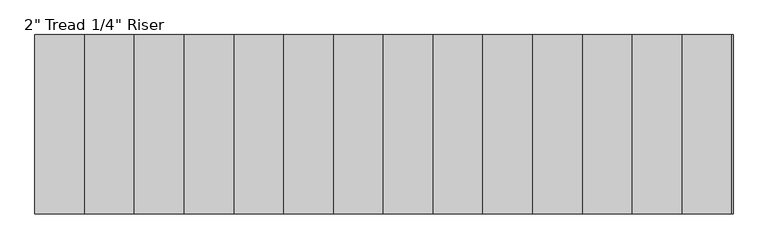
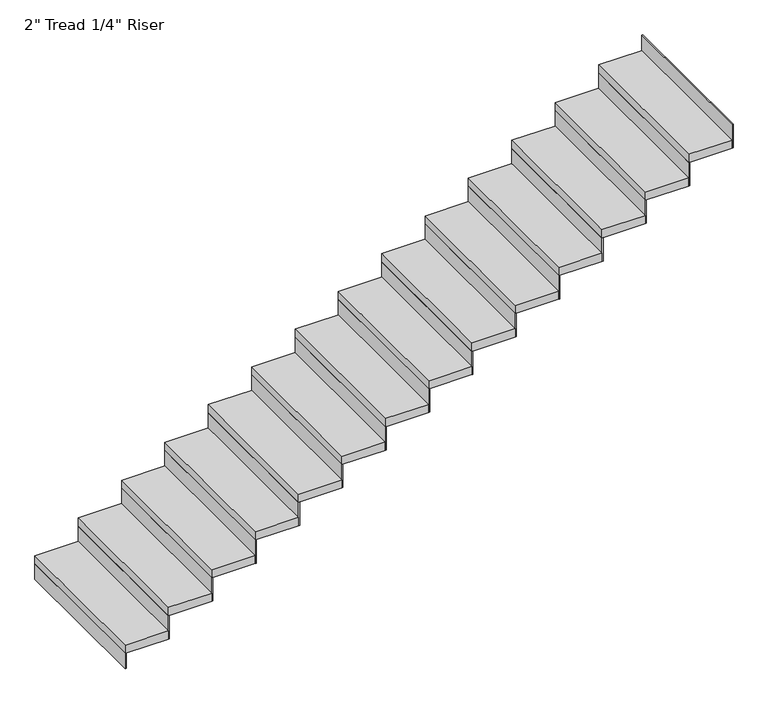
"""IFC4 building model written with IfcOpenShell, lengths in millimetres: stair flight geometry."""

from ifc_helpers import new_model, si_unit, frame, origin, origin_with_axes, place, context, project, spatial, polyline, outline, extrude, source, transform, mapped, element, save


def stair_flight_e342edde(model_context):
    return source(origin(), model_context, "Body", "SweptSolid", [
        extrude(outline(polyline([(24312.3612561, -22025.8617549), (24306.0112561, -22025.8617549), (24306.0112561, -21111.4617549), (24312.3612561, -21111.4617549), (24312.3612561, -22025.8617549)])), origin_with_axes(), (0.0, 0.0, 1.0), 94.3428571),
        extrude(outline(polyline([(24560.0112561, -21111.4617549), (24560.0112561, -22025.8617549), (24306.0112561, -22025.8617549), (24306.0112561, -21111.4617549), (24560.0112561, -21111.4617549)])), frame((0.0, 0.0, 94.3428571), z_axis=(0.0, 0.0, 1.0), x_axis=(1.0, 0.0, 0.0)), (0.0, 0.0, 1.0), 50.8),
        extrude(outline(polyline([(24566.3612561, -22025.8617549), (24560.0112561, -22025.8617549), (24560.0112561, -21111.4617549), (24566.3612561, -21111.4617549), (24566.3612561, -22025.8617549)])), frame((0.0, 0.0, 94.3428571), z_axis=(0.0, 0.0, 1.0), x_axis=(1.0, 0.0, 0.0)), (0.0, 0.0, 1.0), 145.1428571),
        extrude(outline(polyline([(24814.0112561, -21111.4617549), (24814.0112561, -22025.8617549), (24560.0112561, -22025.8617549), (24560.0112561, -21111.4617549), (24814.0112561, -21111.4617549)])), frame((0.0, 0.0, 239.4857143), z_axis=(0.0, 0.0, 1.0), x_axis=(1.0, 0.0, 0.0)), (0.0, 0.0, 1.0), 50.8),
        extrude(outline(polyline([(24820.3612561, -22025.8617549), (24814.0112561, -22025.8617549), (24814.0112561, -21111.4617549), (24820.3612561, -21111.4617549), (24820.3612561, -22025.8617549)])), frame((0.0, 0.0, 239.4857143), z_axis=(0.0, 0.0, 1.0), x_axis=(1.0, 0.0, 0.0)), (0.0, 0.0, 1.0), 145.1428571),
        extrude(outline(polyline([(25068.0112561, -21111.4617549), (25068.0112561, -22025.8617549), (24814.0112561, -22025.8617549), (24814.0112561, -21111.4617549), (25068.0112561, -21111.4617549)])), frame((0.0, 0.0, 384.6285714), z_axis=(0.0, 0.0, 1.0), x_axis=(1.0, 0.0, 0.0)), (0.0, 0.0, 1.0), 50.8),
        extrude(outline(polyline([(25074.3612561, -22025.8617549), (25068.0112561, -22025.8617549), (25068.0112561, -21111.4617549), (25074.3612561, -21111.4617549), (25074.3612561, -22025.8617549)])), frame((0.0, 0.0, 384.6285714), z_axis=(0.0, 0.0, 1.0), x_axis=(1.0, 0.0, 0.0)), (0.0, 0.0, 1.0), 145.1428571),
        extrude(outline(polyline([(25322.0112561, -21111.4617549), (25322.0112561, -22025.8617549), (25068.0112561, -22025.8617549), (25068.0112561, -21111.4617549), (25322.0112561, -21111.4617549)])), frame((0.0, 0.0, 529.7714286), z_axis=(0.0, 0.0, 1.0), x_axis=(1.0, 0.0, 0.0)), (0.0, 0.0, 1.0), 50.8),
        extrude(outline(polyline([(25328.3612561, -22025.8617549), (25322.0112561, -22025.8617549), (25322.0112561, -21111.4617549), (25328.3612561, -21111.4617549), (25328.3612561, -22025.8617549)])), frame((0.0, 0.0, 529.7714286), z_axis=(0.0, 0.0, 1.0), x_axis=(1.0, 0.0, 0.0)), (0.0, 0.0, 1.0), 145.1428571),
        extrude(outline(polyline([(25576.0112561, -21111.4617549), (25576.0112561, -22025.8617549), (25322.0112561, -22025.8617549), (25322.0112561, -21111.4617549), (25576.0112561, -21111.4617549)])), frame((0.0, 0.0, 674.9142857), z_axis=(0.0, 0.0, 1.0), x_axis=(1.0, 0.0, 0.0)), (0.0, 0.0, 1.0), 50.8),
        extrude(outline(polyline([(25582.3612561, -22025.8617549), (25576.0112561, -22025.8617549), (25576.0112561, -21111.4617549), (25582.3612561, -21111.4617549), (25582.3612561, -22025.8617549)])), frame((0.0, 0.0, 674.9142857), z_axis=(0.0, 0.0, 1.0), x_axis=(1.0, 0.0, 0.0)), (0.0, 0.0, 1.0), 145.1428571),
        extrude(outline(polyline([(25830.0112561, -21111.4617549), (25830.0112561, -22025.8617549), (25576.0112561, -22025.8617549), (25576.0112561, -21111.4617549), (25830.0112561, -21111.4617549)])), frame((0.0, 0.0, 820.0571429), z_axis=(0.0, 0.0, 1.0), x_axis=(1.0, 0.0, 0.0)), (0.0, 0.0, 1.0), 50.8),
        extrude(outline(polyline([(25836.3612561, -22025.8617549), (25830.0112561, -22025.8617549), (25830.0112561, -21111.4617549), (25836.3612561, -21111.4617549), (25836.3612561, -22025.8617549)])), frame((0.0, 0.0, 820.0571429), z_axis=(0.0, 0.0, 1.0), x_axis=(1.0, 0.0, 0.0)), (0.0, 0.0, 1.0), 145.1428571),
        extrude(outline(polyline([(26084.0112561, -21111.4617549), (26084.0112561, -22025.8617549), (25830.0112561, -22025.8617549), (25830.0112561, -21111.4617549), (26084.0112561, -21111.4617549)])), frame((0.0, 0.0, 965.2), z_axis=(0.0, 0.0, 1.0), x_axis=(1.0, 0.0, 0.0)), (0.0, 0.0, 1.0), 50.8),
        extrude(outline(polyline([(26090.3612561, -22025.8617549), (26084.0112561, -22025.8617549), (26084.0112561, -21111.4617549), (26090.3612561, -21111.4617549), (26090.3612561, -22025.8617549)])), frame((0.0, 0.0, 965.2), z_axis=(0.0, 0.0, 1.0), x_axis=(1.0, 0.0, 0.0)), (0.0, 0.0, 1.0), 145.1428571),
        extrude(outline(polyline([(26338.0112561, -21111.4617549), (26338.0112561, -22025.8617549), (26084.0112561, -22025.8617549), (26084.0112561, -21111.4617549), (26338.0112561, -21111.4617549)])), frame((0.0, 0.0, 1110.3428571), z_axis=(0.0, 0.0, 1.0), x_axis=(1.0, 0.0, 0.0)), (0.0, 0.0, 1.0), 50.8),
        extrude(outline(polyline([(26344.3612561, -22025.8617549), (26338.0112561, -22025.8617549), (26338.0112561, -21111.4617549), (26344.3612561, -21111.4617549), (26344.3612561, -22025.8617549)])), frame((0.0, 0.0, 1110.3428571), z_axis=(0.0, 0.0, 1.0), x_axis=(1.0, 0.0, 0.0)), (0.0, 0.0, 1.0), 145.1428571),
        extrude(outline(polyline([(26592.0112561, -21111.4617549), (26592.0112561, -22025.8617549), (26338.0112561, -22025.8617549), (26338.0112561, -21111.4617549), (26592.0112561, -21111.4617549)])), frame((0.0, 0.0, 1255.4857143), z_axis=(0.0, 0.0, 1.0), x_axis=(1.0, 0.0, 0.0)), (0.0, 0.0, 1.0), 50.8),
        extrude(outline(polyline([(26598.3612561, -22025.8617549), (26592.0112561, -22025.8617549), (26592.0112561, -21111.4617549), (26598.3612561, -21111.4617549), (26598.3612561, -22025.8617549)])), frame((0.0, 0.0, 1255.4857143), z_axis=(0.0, 0.0, 1.0), x_axis=(1.0, 0.0, 0.0)), (0.0, 0.0, 1.0), 145.1428571),
        extrude(outline(polyline([(26846.0112561, -21111.4617549), (26846.0112561, -22025.8617549), (26592.0112561, -22025.8617549), (26592.0112561, -21111.4617549), (26846.0112561, -21111.4617549)])), frame((0.0, 0.0, 1400.6285714), z_axis=(0.0, 0.0, 1.0), x_axis=(1.0, 0.0, 0.0)), (0.0, 0.0, 1.0), 50.8),
        extrude(outline(polyline([(26852.3612561, -22025.8617549), (26846.0112561, -22025.8617549), (26846.0112561, -21111.4617549), (26852.3612561, -21111.4617549), (26852.3612561, -22025.8617549)])), frame((0.0, 0.0, 1400.6285714), z_axis=(0.0, 0.0, 1.0), x_axis=(1.0, 0.0, 0.0)), (0.0, 0.0, 1.0), 145.1428571),
        extrude(outline(polyline([(27100.0112561, -21111.4617549), (27100.0112561, -22025.8617549), (26846.0112561, -22025.8617549), (26846.0112561, -21111.4617549), (27100.0112561, -21111.4617549)])), frame((0.0, 0.0, 1545.7714286), z_axis=(0.0, 0.0, 1.0), x_axis=(1.0, 0.0, 0.0)), (0.0, 0.0, 1.0), 50.8),
        extrude(outline(polyline([(27106.3612561, -22025.8617549), (27100.0112561, -22025.8617549), (27100.0112561, -21111.4617549), (27106.3612561, -21111.4617549), (27106.3612561, -22025.8617549)])), frame((0.0, 0.0, 1545.7714286), z_axis=(0.0, 0.0, 1.0), x_axis=(1.0, 0.0, 0.0)), (0.0, 0.0, 1.0), 145.1428571),
        extrude(outline(polyline([(27354.0112561, -21111.4617549), (27354.0112561, -22025.8617549), (27100.0112561, -22025.8617549), (27100.0112561, -21111.4617549), (27354.0112561, -21111.4617549)])), frame((0.0, 0.0, 1690.9142857), z_axis=(0.0, 0.0, 1.0), x_axis=(1.0, 0.0, 0.0)), (0.0, 0.0, 1.0), 50.8),
        extrude(outline(polyline([(27360.3612561, -22025.8617549), (27354.0112561, -22025.8617549), (27354.0112561, -21111.4617549), (27360.3612561, -21111.4617549), (27360.3612561, -22025.8617549)])), frame((0.0, 0.0, 1690.9142857), z_axis=(0.0, 0.0, 1.0), x_axis=(1.0, 0.0, 0.0)), (0.0, 0.0, 1.0), 145.1428571),
        extrude(outline(polyline([(27608.0112561, -21111.4617549), (27608.0112561, -22025.8617549), (27354.0112561, -22025.8617549), (27354.0112561, -21111.4617549), (27608.0112561, -21111.4617549)])), frame((0.0, 0.0, 1836.0571429), z_axis=(0.0, 0.0, 1.0), x_axis=(1.0, 0.0, 0.0)), (0.0, 0.0, 1.0), 50.8),
        extrude(outline(polyline([(27614.3612561, -22025.8617549), (27608.0112561, -22025.8617549), (27608.0112561, -21111.4617549), (27614.3612561, -21111.4617549), (27614.3612561, -22025.8617549)])), frame((0.0, 0.0, 1836.0571429), z_axis=(0.0, 0.0, 1.0), x_axis=(1.0, 0.0, 0.0)), (0.0, 0.0, 1.0), 145.1428571),
        extrude(outline(polyline([(27868.3612561, -22025.8617549), (27862.0112561, -22025.8617549), (27862.0112561, -21111.4617549), (27868.3612561, -21111.4617549), (27868.3612561, -22025.8617549)])), frame((0.0, 0.0, 1981.2), z_axis=(0.0, 0.0, 1.0), x_axis=(1.0, 0.0, 0.0)), (0.0, 0.0, 1.0), 145.1428571),
        extrude(outline(polyline([(27862.0112561, -21111.4617549), (27862.0112561, -22025.8617549), (27608.0112561, -22025.8617549), (27608.0112561, -21111.4617549), (27862.0112561, -21111.4617549)])), frame((0.0, 0.0, 1981.2), z_axis=(0.0, 0.0, 1.0), x_axis=(1.0, 0.0, 0.0)), (0.0, 0.0, 1.0), 50.8),
    ])


if __name__ == "__main__":
    model = new_model("IFC4")
    model_context = context("Model", 3, world=origin())
    ifc_project = project(units=[si_unit("LENGTHUNIT", "METRE", prefix="MILLI")], contexts=[model_context])
    site = spatial("IfcSite", under=ifc_project)
    building = spatial("IfcBuilding", under=site)
    placement = place(None, origin())
    stair_flight_shape = stair_flight_e342edde(model_context)
    element("IfcStairFlight", 1, ObjectType="2\" Tread 1/4\" Riser", at=placement, inside=building, context=model_context, shape_type="MappedRepresentation", body=[
        mapped(stair_flight_shape, transform((0.0, 0.0, 0.0), x_axis=(1.0, 0.0, 0.0), y_axis=(0.0, 1.0, 0.0), z_axis=(0.0, 0.0, 1.0))),
    ])
    save(model, "model.ifc")
